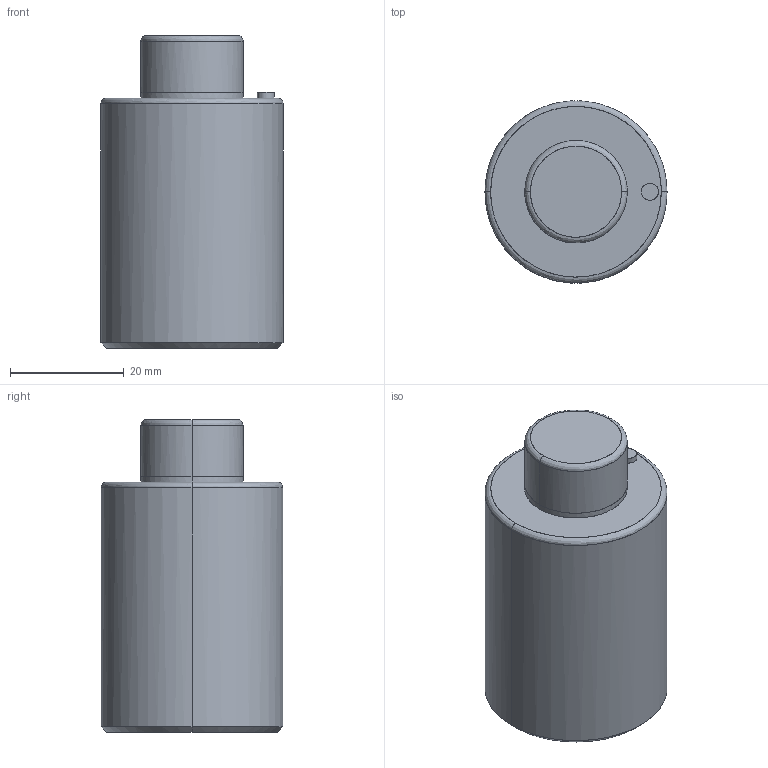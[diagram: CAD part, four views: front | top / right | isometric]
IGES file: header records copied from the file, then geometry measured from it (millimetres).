
Global section: file name: E:\UnigraphicsGraphicData\MISUMI_PRESS-PARTS\IGES\3d_gsc32-10_03830_r00.igs; native system: NX V5.0; preprocessor: UGS NX IGES V5.0; author: MISUMI; date: 20110105.160744; units: millimetre
Bounding box: 32 x 31.95 x 55 mm (x, y, z)
Surface area: 6735.8 mm2 (no closed solid volume)
Topology: 0 solids, 0 shells, 25 faces, 168 edges, 166 vertices
Faces by surface type: bspline 25
